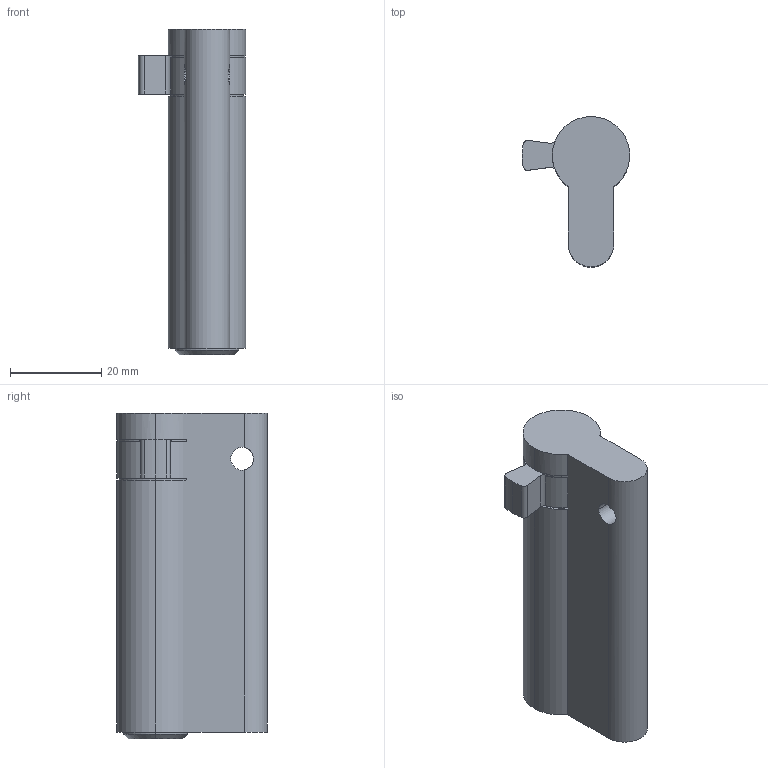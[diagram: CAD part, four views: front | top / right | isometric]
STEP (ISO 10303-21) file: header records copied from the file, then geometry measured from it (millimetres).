
FILE_DESCRIPTION (( 'STEP AP214' ), '1' );
FILE_NAME ('TPL-H-EU-512-R 29Oct2024.STEP', '2024-10-29T22:17:03', ( '' ), ( '' ), 'SwSTEP 2.0', 'SolidWorks 2023', '' );
FILE_SCHEMA (( 'AUTOMOTIVE_DESIGN' ));
Length unit declared in the file: millimetre
Products named in the file (1): TPL-H-EU-512-R 29Oct2024
Bounding box: 23.6 x 33 x 71.5 mm (x, y, z)
Volume: 26708.9 mm3; surface area: 7486.3 mm2
Topology: 1 solids, 1 shells, 46 faces, 127 edges, 80 vertices
Faces by surface type: cylinder 27, plane 16, cone 3
Entity records: 1575 total; most frequent: CARTESIAN_POINT 324, DIRECTION 278, ORIENTED_EDGE 254, EDGE_CURVE 127, AXIS2_PLACEMENT_3D 110, VERTEX_POINT 80, CIRCLE 63, VECTOR 58
